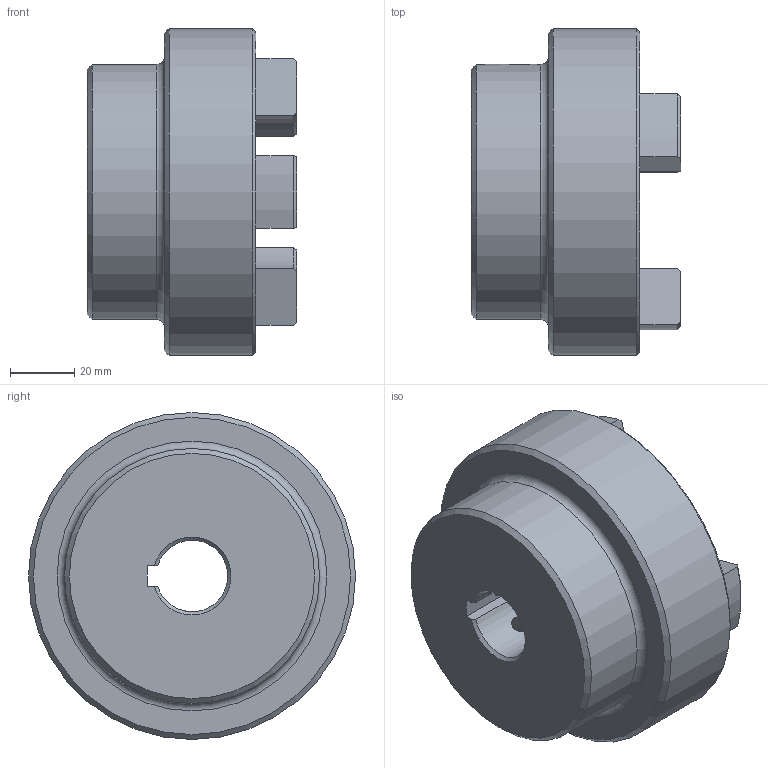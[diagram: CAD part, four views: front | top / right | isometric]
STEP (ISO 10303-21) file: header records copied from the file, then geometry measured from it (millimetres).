
FILE_DESCRIPTION (( 'STEP AP203' ), '1' );
FILE_NAME ('RC4.step', '2024-07-24T17:34:21', ( 'Adlan' ), ( '' ), 'SwSTEP 2.0', 'SolidWorks 2013', '' );
FILE_SCHEMA (( 'CONFIG_CONTROL_DESIGN' ));
Length unit declared in the file: inch
Products named in the file (1): RC4
Bounding box: 65.02 x 101.6 x 101.6 mm (x, y, z)
Volume: 264291.2 mm3; surface area: 41111.9 mm2
Topology: 1 solids, 1 shells, 67 faces, 168 edges, 105 vertices
Faces by surface type: cylinder 26, plane 16, torus 13, cone 12
Full cylindrical faces by diameter (mm): 5.105 x2, 79.248 x1, 101.6 x1
Entity records: 2237 total; most frequent: CARTESIAN_POINT 562, DIRECTION 354, ORIENTED_EDGE 310, EDGE_CURVE 155, AXIS2_PLACEMENT_3D 142, VERTEX_POINT 102, EDGE_LOOP 85, CIRCLE 74
